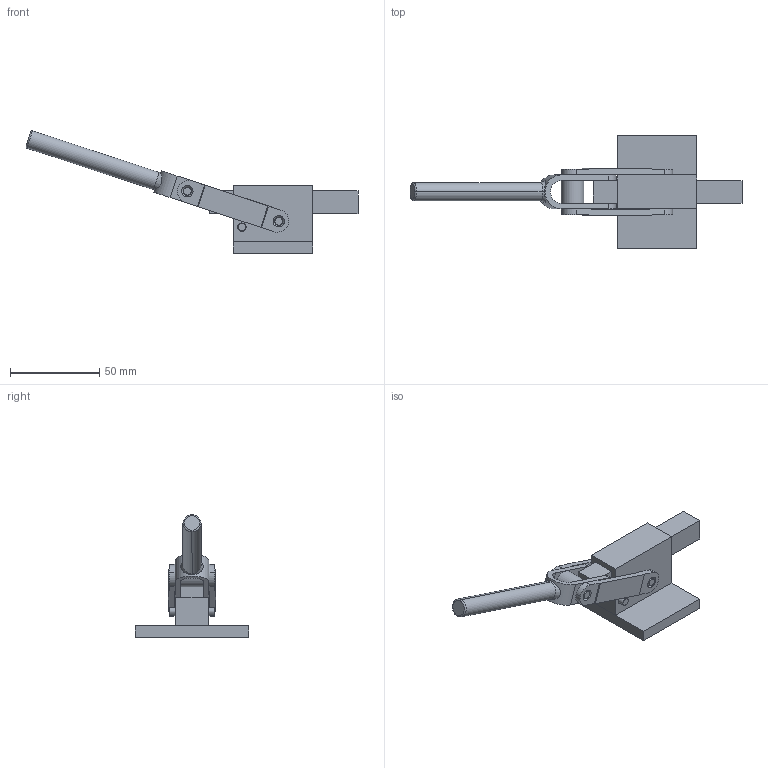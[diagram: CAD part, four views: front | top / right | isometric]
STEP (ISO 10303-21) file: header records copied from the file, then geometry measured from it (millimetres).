
FILE_DESCRIPTION( ( '' ), '1' );
FILE_NAME( 'C:\Documents and Settings\Richard Grenzke\My Documents\Wolverine Company Data\WOLVERINE CD 5_17_05\SOLIDS STEP\straight_line\c151a.stp', ' ', ( '' ), ( '' ), 'ACIS Interop R16', 'Kubotek KeyCreator V5.5.1 (0454)', ' ' );
FILE_SCHEMA( ( 'CONFIG_CONTROL_DESIGN' ) );
Length unit declared in the file: inch
Products named in the file (13): 1; 2; 3; 4; 5; 6; 7; 8; 9; 10; 11; 12; 13
Bounding box: 186.21 x 63.5 x 68.63 mm (x, y, z)
Volume: 65349.1 mm3; surface area: 31103.2 mm2
Topology: 12 solids, 12 shells, 144 faces, 382 edges, 263 vertices
Faces by surface type: plane 74, cylinder 54, cone 14, torus 2
Entity records: 5246 total; most frequent: CARTESIAN_POINT 862, DIRECTION 857, ORIENTED_EDGE 764, EDGE_CURVE 382, AXIS2_PLACEMENT_3D 322, VERTEX_POINT 263, LINE 213, VECTOR 213
